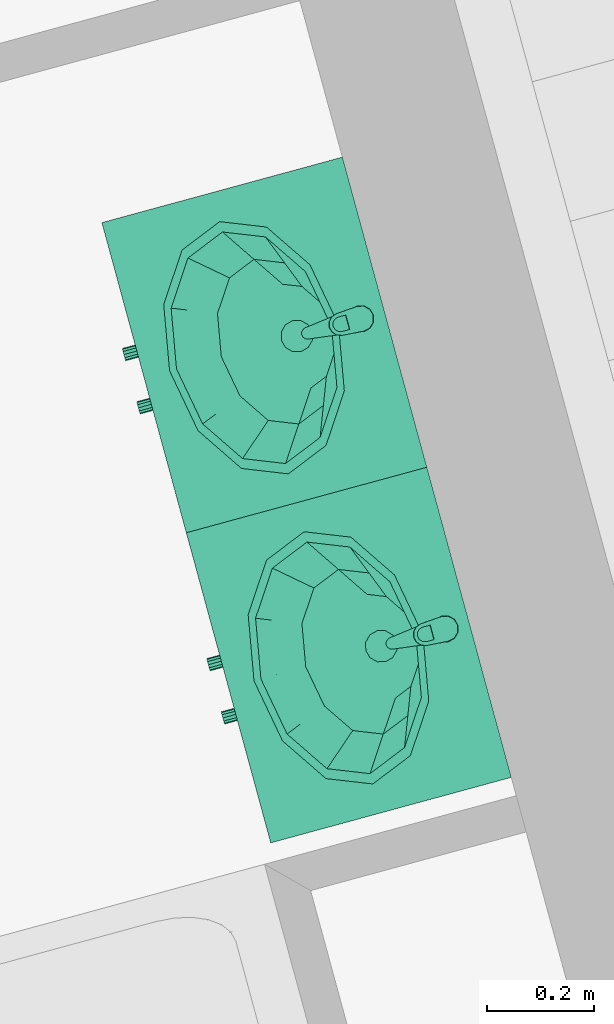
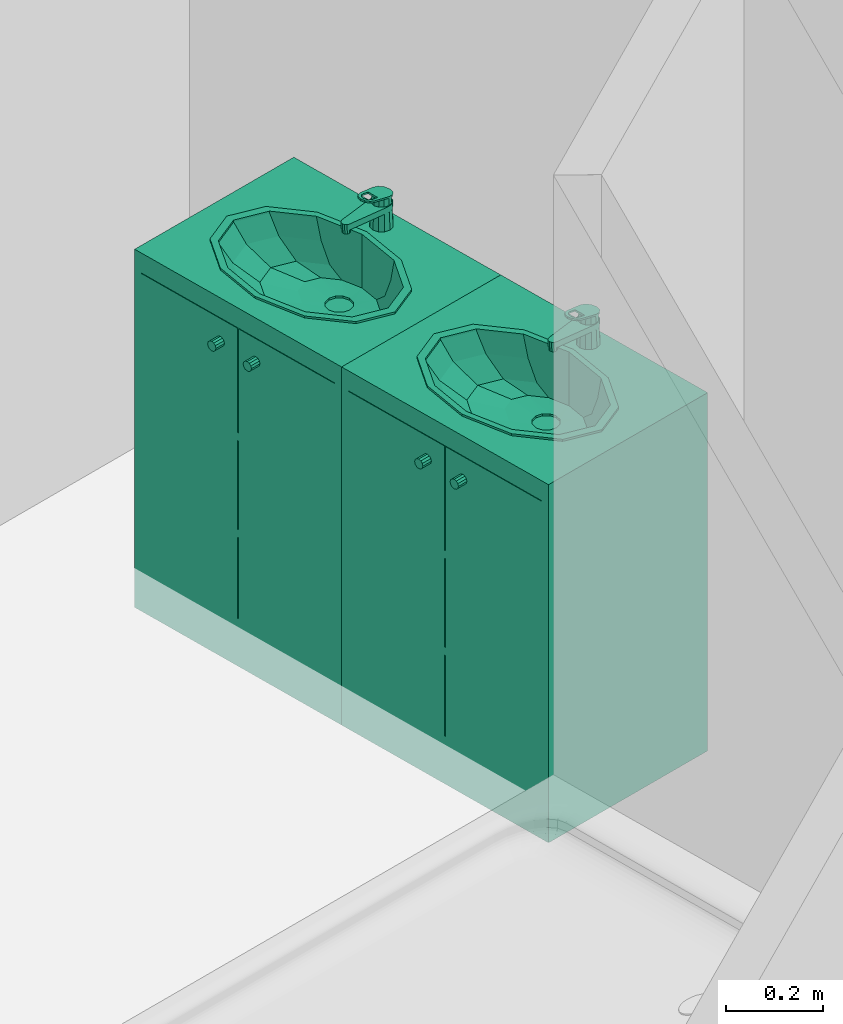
# One storey, part 141 of 195: 2 distribution elements.
"""IFC2X3 building model written with IfcOpenShell, lengths in metres."""

import ifcopenshell
import ifcopenshell.guid

model = None  # the IFC model being written
_history = None  # IfcOwnerHistory: only IFC2X3 demands one
_inside = {}  # id of a spatial element -> (the spatial element, [elements in it])
_under = {}  # id of a project, library or spatial element -> (it, [spatial elements below it])
_declared = {}  # id of a project -> (the project, [libraries it declares])
_typed = {}  # id of a type object -> (the type object, [elements of that type])
_made_of = {}  # id of a material, layer set ... -> (it, [elements and type objects made of it])


def new_model(schema):
    """Start an empty IFC model of exactly this schema.

    Asked for "IFC4X3", IfcOpenShell would pick the latest addendum, in which some entities
    have other attributes; the version numbers below select the first issue.
    IFC2X3 requires an IfcOwnerHistory on every rooted entity: one is made here for all.
    """
    global model, _history
    if schema == "IFC4X3":
        model = ifcopenshell.file(schema_version=(4, 3, 0, 0))
    else:
        model = ifcopenshell.file(schema=schema)
    _inside.clear()
    _under.clear()
    _declared.clear()
    _typed.clear()
    _made_of.clear()
    _history = None
    if model.schema == "IFC2X3":
        org = make("IfcOrganization", Name="unknown")
        user = make(
            "IfcPersonAndOrganization",
            ThePerson=make("IfcPerson", FamilyName="unknown"),
            TheOrganization=org,
        )
        app = make(
            "IfcApplication",
            ApplicationDeveloper=org,
            Version="unknown",
            ApplicationFullName="unknown",
            ApplicationIdentifier="unknown",
        )
        _history = make(
            "IfcOwnerHistory",
            OwningUser=user,
            OwningApplication=app,
            ChangeAction="ADDED",
            CreationDate=0,
        )
    return model


def make(cls, **values):
    """One entity of the class cls with the attributes given. An attribute that is None is left unset."""
    return model.create_entity(
        cls, **{name: value for name, value in values.items() if value is not None}
    )


def entity(cls, *values):
    """Any entity or typed value of the class cls, its attributes in the order of the schema. None: left unset."""
    e = model.create_entity(cls)
    for i, value in enumerate(values):
        if value is not None:
            e[i] = value
    return e


def rooted(cls, **values):
    """An entity with a GlobalId (a new one), such as an element, a storey or a relation."""
    return make(cls, GlobalId=ifcopenshell.guid.new(), OwnerHistory=_history, **values)


def si_unit(unit_type, name, prefix=None):
    """IfcSIUnit, for example si_unit("LENGTHUNIT", "METRE", prefix="MILLI")."""
    return make("IfcSIUnit", UnitType=unit_type, Prefix=prefix, Name=name)


def converted_unit(unit_type, name, factor, base, dimensions=None, offset=None):
    """IfcConversionBasedUnit, such as the inch: factor (a typed value) times the base unit."""
    return make(
        "IfcConversionBasedUnit"
        if offset is None
        else "IfcConversionBasedUnitWithOffset",
        ConversionOffset=offset,
        Dimensions=None
        if dimensions is None
        else entity("IfcDimensionalExponents", *dimensions),
        UnitType=unit_type,
        Name=name,
        ConversionFactor=make(
            "IfcMeasureWithUnit", ValueComponent=factor, UnitComponent=base
        ),
    )


def derived_unit(unit_type, elements):
    """IfcDerivedUnit: a product of units, each with its exponent."""
    return make(
        "IfcDerivedUnit",
        Elements=[
            make("IfcDerivedUnitElement", Unit=unit, Exponent=power)
            for unit, power in elements
        ],
        UnitType=unit_type,
    )


def money_unit(currency):
    """IfcMonetaryUnit."""
    return make("IfcMonetaryUnit", Currency=currency)


def assignment(units):
    """IfcUnitAssignment: the units of a project."""
    return None if units is None else make("IfcUnitAssignment", Units=units)


def point(xyz):
    """IfcCartesianPoint."""
    return None if xyz is None else make("IfcCartesianPoint", Coordinates=xyz)


def direction(xyz):
    """IfcDirection."""
    return None if xyz is None else make("IfcDirection", DirectionRatios=xyz)


def frame(location, z_axis=None, x_axis=None):
    """IfcAxis2Placement3D, a coordinate frame: its origin and axes. An axis left out is left unset."""
    return make(
        "IfcAxis2Placement3D",
        Location=point(location),
        Axis=direction(z_axis),
        RefDirection=direction(x_axis),
    )


def origin_with_axes():
    """The frame at (0, 0, 0) with the z axis (0, 0, 1) and the x axis (1, 0, 0) written out."""
    return frame((0.0, 0.0, 0.0), z_axis=(0.0, 0.0, 1.0), x_axis=(1.0, 0.0, 0.0))


def place(relative_to, where):
    """IfcLocalPlacement: puts the frame where relative to a parent placement (None: the world)."""
    return make(
        "IfcLocalPlacement", PlacementRelTo=relative_to, RelativePlacement=where
    )


def context(
    kind, dimensions, precision=None, world=None, true_north=None, identifier=None
):
    """IfcGeometricRepresentationContext, for example the 3D "Model" context."""
    return make(
        "IfcGeometricRepresentationContext",
        ContextIdentifier=identifier,
        ContextType=kind,
        CoordinateSpaceDimension=dimensions,
        Precision=precision,
        WorldCoordinateSystem=world,
        TrueNorth=true_north,
    )


def subcontext(parent, identifier, kind, view, scale=None):
    """IfcGeometricRepresentationSubContext, for example "Body" below "Model"."""
    return make(
        "IfcGeometricRepresentationSubContext",
        ContextIdentifier=identifier,
        ContextType=kind,
        ParentContext=parent,
        TargetScale=scale,
        TargetView=view,
    )


def project(units=None, contexts=None):
    """IfcProject with its units and contexts."""
    return rooted(
        "IfcProject",
        Name="project",
        RepresentationContexts=contexts,
        UnitsInContext=assignment(units),
    )


def spatial(cls, under=None, at=None, **own):
    """A site, building, storey or space (cls), placed at a placement, below another one or the project."""
    s = rooted(cls, ObjectPlacement=at, **own)
    if under is not None:
        _under.setdefault(under.id(), (under, []))[1].append(s)
    return s


def faces_of(points, faces, orient=None, outer=None):
    """IfcFace entities. A face is a list of loops; a loop is a list of indices into points, from 0.

    orient and outer hold one flag for each loop. By default every Orientation is true, the
    first loop of a face is its IfcFaceOuterBound and the others are IfcFaceBound.
    """
    made = []
    for i, loops in enumerate(faces):
        bounds = []
        for j, loop in enumerate(loops):
            is_outer = j == 0 if outer is None else outer[i][j]
            bounds.append(
                make(
                    "IfcFaceOuterBound" if is_outer else "IfcFaceBound",
                    Bound=make("IfcPolyLoop", Polygon=[points[k] for k in loop]),
                    Orientation=True if orient is None else orient[i][j],
                )
            )
        made.append(make("IfcFace", Bounds=bounds))
    return made


def open_shell(faces, orient=None, outer=None):
    """The faces of one IfcOpenShell. surface_model builds it on its shared points."""
    return ("IfcOpenShell", faces, orient, outer)


def faceted_brep(points, faces, orient=None, outer=None, voids=None):
    """IfcFacetedBrep: a solid bounded by flat faces; with voids (closed shells), ...WithVoids."""
    shared = [point(p) for p in points]
    hull = make("IfcClosedShell", CfsFaces=faces_of(shared, faces, orient, outer))
    if voids is None:
        return make("IfcFacetedBrep", Outer=hull)
    return make(
        "IfcFacetedBrepWithVoids",
        Outer=hull,
        Voids=[
            make(cls, CfsFaces=faces_of(shared, fs, o, b)) for cls, fs, o, b in voids
        ],
    )


def surface_model(cls, points, shells):
    """IfcFaceBasedSurfaceModel or IfcShellBasedSurfaceModel (cls): surfaces that need not close."""
    shared = [point(p) for p in points]
    made = [make(c, CfsFaces=faces_of(shared, fs, o, b)) for c, fs, o, b in shells]
    if cls == "IfcFaceBasedSurfaceModel":
        return make(cls, FbsmFaces=made)
    return make(cls, SbsmBoundary=made)


def shape(context_of_items, identifier, shape_type, items):
    """IfcShapeRepresentation: the items that make up one representation, for example the "Body"."""
    return make(
        "IfcShapeRepresentation",
        ContextOfItems=context_of_items,
        RepresentationIdentifier=identifier,
        RepresentationType=shape_type,
        Items=items,
    )


def source(mapping_origin, context_of_items, identifier, shape_type, items):
    """IfcRepresentationMap: a shape defined once, which mapped items show again and again."""
    return make(
        "IfcRepresentationMap",
        MappingOrigin=mapping_origin,
        MappedRepresentation=shape(context_of_items, identifier, shape_type, items),
    )


def transform(
    local_origin,
    x_axis=None,
    y_axis=None,
    z_axis=None,
    scale=None,
    scale2=None,
    scale3=None,
    uniform=True,
):
    """IfcCartesianTransformationOperator3D, or its non-uniform kind. x_axis, y_axis, z_axis: its Axis1, 2, 3."""
    if uniform:
        return make(
            "IfcCartesianTransformationOperator3D",
            Axis1=direction(x_axis),
            Axis2=direction(y_axis),
            LocalOrigin=point(local_origin),
            Scale=scale,
            Axis3=direction(z_axis),
        )
    return make(
        "IfcCartesianTransformationOperator3DnonUniform",
        Axis1=direction(x_axis),
        Axis2=direction(y_axis),
        LocalOrigin=point(local_origin),
        Scale=scale,
        Axis3=direction(z_axis),
        Scale2=scale2,
        Scale3=scale3,
    )


def mapped(mapping_source, mapping_target):
    """IfcMappedItem: shows the shape of a source again, moved by a transform."""
    return make(
        "IfcMappedItem", MappingSource=mapping_source, MappingTarget=mapping_target
    )


def made_of(thing, what):
    """Note that an element or type object is made of a material, layer set ...; save() writes the relation."""
    if what is not None:
        _made_of.setdefault(what.id(), (what, []))[1].append(thing)
    return thing


def type_object(cls, material=None, **own):
    """A type object (cls), such as IfcWallType, which elements share."""
    return made_of(rooted(cls, **own), material)


def element(
    cls,
    number,
    at=None,
    inside=None,
    cuts=None,
    type_object=None,
    material=None,
    context=None,
    identifier="Body",
    shape_type=None,
    held_by="IfcProductDefinitionShape",
    body=None,
    shapes=None,
    **own,
):
    """One element of the class cls, such as IfcWall. Its Tag is "e" and its number.

    at: its placement. inside: the storey or other place that contains it. cuts: it is an
    opening in that element (IfcRelVoidsElement). A single representation is given by context,
    identifier, shape_type and body (its items); several are given by shapes. held_by: the class
    of the entity that holds the representations. save() writes the other relations.
    """
    e = rooted(cls, Tag="e%d" % number, ObjectPlacement=at, **own)
    if body is not None:
        shapes = [shape(context, identifier, shape_type, body)]
    if shapes is not None:
        e.Representation = make(held_by, Representations=shapes)
    if inside is not None:
        _inside.setdefault(inside.id(), (inside, []))[1].append(e)
    if cuts is not None:
        rooted(
            "IfcRelVoidsElement", RelatingBuildingElement=cuts, RelatedOpeningElement=e
        )
    if type_object is not None:
        _typed.setdefault(type_object.id(), (type_object, []))[1].append(e)
    return made_of(e, material)


def aggregate(whole, parts):
    """IfcRelAggregates: a whole, such as a stair, and the parts it consists of."""
    return rooted("IfcRelAggregates", RelatingObject=whole, RelatedObjects=parts)


def save(model, path):
    """Write the relations noted so far, then the file.

    IfcRelAggregates (storeys below a building ...), IfcRelContainedInSpatialStructure (elements
    in a storey), IfcRelDefinesByType, IfcRelAssociatesMaterial and IfcRelDeclares: one each for
    every whole, place, type object, material and project.
    """
    for whole, parts in _under.values():
        aggregate(whole, parts)
    for where, things in _inside.values():
        rooted(
            "IfcRelContainedInSpatialStructure",
            RelatedElements=things,
            RelatingStructure=where,
        )
    for kind, things in _typed.values():
        rooted("IfcRelDefinesByType", RelatedObjects=things, RelatingType=kind)
    for what, things in _made_of.values():
        rooted("IfcRelAssociatesMaterial", RelatedObjects=things, RelatingMaterial=what)
    for by, libraries in _declared.values():
        rooted("IfcRelDeclares", RelatingContext=by, RelatedDefinitions=libraries)
    model.write(path)


model = new_model("IFC2X3")

# Units and contexts
model_context = context("Model", 3, precision=1e-05, world=origin_with_axes(), true_north=direction((0.0, 1.0)))
body_context = subcontext(model_context, "Body", "Model", "MODEL_VIEW")
ifc_project = project(units=[si_unit("LENGTHUNIT", "METRE"), si_unit("AREAUNIT", "SQUARE_METRE"), si_unit("VOLUMEUNIT", "CUBIC_METRE"), converted_unit("PLANEANGLEUNIT", "DEGREE", entity("IfcPlaneAngleMeasure", 0.0174532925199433), si_unit("PLANEANGLEUNIT", "RADIAN"), dimensions=[0, 0, 0, 0, 0, 0, 0]), money_unit("CHF"), converted_unit("TIMEUNIT", "Year", entity("IfcTimeMeasure", 31557600.0), si_unit("TIMEUNIT", "SECOND"), dimensions=[0, 0, 1, 0, 0, 0, 0]), si_unit("MASSUNIT", "GRAM", prefix="KILO"), si_unit("THERMODYNAMICTEMPERATUREUNIT", "DEGREE_CELSIUS"), si_unit("LUMINOUSINTENSITYUNIT", "LUMEN"), si_unit("ENERGYUNIT", "JOULE", prefix="MEGA"), derived_unit("THERMALCONDUCTANCEUNIT", [(si_unit("POWERUNIT", "WATT"), 1), (si_unit("LENGTHUNIT", "METRE"), -1), (si_unit("THERMODYNAMICTEMPERATUREUNIT", "KELVIN"), -1)]), derived_unit("SPECIFICHEATCAPACITYUNIT", [(si_unit("ENERGYUNIT", "JOULE"), 1), (si_unit("MASSUNIT", "GRAM", prefix="KILO"), -1), (si_unit("THERMODYNAMICTEMPERATUREUNIT", "KELVIN"), -1)]), derived_unit("MASSDENSITYUNIT", [(si_unit("MASSUNIT", "GRAM", prefix="KILO"), 1), (si_unit("VOLUMEUNIT", "CUBIC_METRE"), -1)])], contexts=[model_context])

# Site, building, storey
site_placement = place(None, origin_with_axes())
site = spatial("IfcSite", under=ifc_project, at=site_placement, Name="Site", CompositionType="ELEMENT")
building_placement = place(site_placement, origin_with_axes())
building = spatial("IfcBuilding", under=site, at=building_placement, Name="Bâtiment", CompositionType="ELEMENT")
storey_placement = place(building_placement, origin_with_axes())
storey = spatial("IfcBuildingStorey", under=building, at=storey_placement, Name="rdc", CompositionType="ELEMENT", Elevation=0.0)

# Distribution elements
distribution_element_type = type_object("IfcDistributionElementType", Name="Lavabo sur meuble 27")
shared_shape = source(origin_with_axes(), body_context, "Body", "SurfaceModel", [
    faceted_brep([(0.0, 0.0, 0.0), (0.6, 0.0, 0.0), (0.6, 0.0, 0.1), (0.0, 0.0, 0.1), (0.0, 0.4653441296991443, 0.0), (0.6, 0.4653441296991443, 0.0), (0.6, 0.4653441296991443, 0.1), (0.0, 0.4653441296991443, 0.1)], [[[0, 1, 2, 3]], [[0, 4, 5, 1]], [[1, 5, 6, 2]], [[3, 2, 6, 7]], [[4, 0, 3, 7]], [[5, 4, 7, 6]]]),
    faceted_brep([(0.0, 0.0, 0.1), (0.02, 0.0, 0.1), (0.02, 0.0, 0.12), (0.0, 0.0, 0.12), (0.0, 0.4653441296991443, 0.1), (0.02, 0.4653441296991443, 0.1), (0.58, 0.4653441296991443, 0.1), (0.6, 0.4653441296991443, 0.1), (0.6, 0.0, 0.1), (0.58, 0.0, 0.1), (0.58, 0.0, 0.12), (0.6, 0.0, 0.12), (0.6, 0.4653441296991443, 0.12), (0.58, 0.4653441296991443, 0.12), (0.02, 0.4653441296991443, 0.12), (0.0, 0.4653441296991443, 0.12)], [[[0, 1, 2, 3]], [[0, 4, 5, 6, 7, 8, 9, 1]], [[1, 9, 10, 2]], [[3, 2, 10, 11, 12, 13, 14, 15]], [[4, 0, 3, 15]], [[5, 4, 15, 14]], [[6, 5, 14, 13]], [[7, 6, 13, 12]], [[8, 7, 12, 11]], [[9, 8, 11, 10]]]),
    faceted_brep([(0.0, 0.0, 0.12), (0.02, 0.0, 0.12), (0.02, 0.0, 0.85), (0.0, 0.0, 0.85), (0.0, 0.4653441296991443, 0.12), (0.6, 0.4653441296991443, 0.12), (0.6, 0.0, 0.12), (0.58, 0.0, 0.12), (0.58, 0.4453441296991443, 0.12), (0.02, 0.4453441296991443, 0.12), (0.02, 0.4453441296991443, 0.85), (0.58, 0.4453441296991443, 0.85), (0.58, 0.0, 0.85), (0.6, 0.0, 0.85), (0.6, 0.4653441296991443, 0.85), (0.0, 0.4653441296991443, 0.85)], [[[0, 1, 2, 3]], [[0, 4, 5, 6, 7, 8, 9, 1]], [[1, 9, 10, 2]], [[3, 2, 10, 11, 12, 13, 14, 15]], [[4, 0, 3, 15]], [[5, 4, 15, 14]], [[6, 5, 14, 13]], [[7, 6, 13, 12]], [[8, 7, 12, 11]], [[9, 8, 11, 10]]]),
    faceted_brep([(0.58, 0.0, 0.3233333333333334), (0.58, 0.4453441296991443, 0.3233333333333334), (0.58, 0.4453441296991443, 0.3433333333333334), (0.58, 0.0, 0.3433333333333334), (0.02, 0.0, 0.3233333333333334), (0.02, 0.4453441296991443, 0.3233333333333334), (0.02, 0.4453441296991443, 0.3433333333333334), (0.02, 0.0, 0.3433333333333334)], [[[0, 1, 2, 3]], [[0, 4, 5, 1]], [[1, 5, 6, 2]], [[3, 2, 6, 7]], [[4, 0, 3, 7]], [[5, 4, 7, 6]]]),
    faceted_brep([(0.58, 0.0, 0.5666666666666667), (0.58, 0.4453441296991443, 0.5666666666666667), (0.58, 0.4453441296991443, 0.5866666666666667), (0.58, 0.0, 0.5866666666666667), (0.02, 0.0, 0.5666666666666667), (0.02, 0.4453441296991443, 0.5666666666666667), (0.02, 0.4453441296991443, 0.5866666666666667), (0.02, 0.0, 0.5866666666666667)], [[[0, 1, 2, 3]], [[0, 4, 5, 1]], [[1, 5, 6, 2]], [[3, 2, 6, 7]], [[4, 0, 3, 7]], [[5, 4, 7, 6]]]),
    faceted_brep([(0.0, 0.4653441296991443, 0.85), (0.6, 0.4653441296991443, 0.85), (0.6, 0.0, 0.85), (0.0, 0.0, 0.85), (0.4124999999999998, 0.08276825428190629, 0.85), (0.4948557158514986, 0.137672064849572, 0.85), (0.525, 0.2126720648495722, 0.85), (0.4948557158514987, 0.2876720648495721, 0.85), (0.4125, 0.3425758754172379, 0.85), (0.3, 0.3626720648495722, 0.85), (0.1875000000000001, 0.342575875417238, 0.85), (0.1051442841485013, 0.2876720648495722, 0.85), (0.07499999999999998, 0.2126720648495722, 0.85), (0.1051442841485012, 0.1376720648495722, 0.85), (0.1874999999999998, 0.08276825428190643, 0.85), (0.3, 0.06267206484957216, 0.85), (0.0, 0.4653441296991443, 0.9), (0.6, 0.4653441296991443, 0.9), (0.6, 0.0, 0.9), (0.0, 0.0, 0.9), (0.4124999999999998, 0.08276825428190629, 0.9), (0.4948557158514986, 0.137672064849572, 0.9), (0.525, 0.2126720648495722, 0.9), (0.4948557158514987, 0.2876720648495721, 0.9), (0.4125, 0.3425758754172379, 0.9), (0.3, 0.3626720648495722, 0.9), (0.1875000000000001, 0.342575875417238, 0.9), (0.1051442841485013, 0.2876720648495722, 0.9), (0.07499999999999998, 0.2126720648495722, 0.9), (0.1051442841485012, 0.1376720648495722, 0.9), (0.1874999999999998, 0.08276825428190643, 0.9), (0.3, 0.06267206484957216, 0.9)], [[[0, 1, 2, 3], [4, 5, 6, 7, 8, 9, 10, 11, 12, 13, 14, 15]], [[0, 16, 17, 1]], [[1, 17, 18, 2]], [[2, 18, 19, 3]], [[3, 19, 16, 0]], [[20, 21, 5, 4]], [[21, 22, 6, 5]], [[22, 23, 7, 6]], [[23, 24, 8, 7]], [[24, 25, 9, 8]], [[25, 26, 10, 9]], [[26, 27, 11, 10]], [[27, 28, 12, 11]], [[28, 29, 13, 12]], [[29, 30, 14, 13]], [[30, 31, 15, 14]], [[31, 20, 4, 15]], [[18, 17, 16, 19], [24, 23, 22, 21, 20, 31, 30, 29, 28, 27, 26, 25]]]),
    faceted_brep([(0.544, 0.2126720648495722, 0.905), (0.544, 0.2126720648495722, 0.9), (0.511310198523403, 0.2943684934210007, 0.9), (0.511310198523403, 0.2943684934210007, 0.905), (0.5113101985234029, 0.1309756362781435, 0.905), (0.5113101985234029, 0.1309756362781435, 0.9), (0.4219999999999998, 0.07116969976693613, 0.9), (0.3, 0.04927920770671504, 0.9), (0.1779999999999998, 0.07116969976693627, 0.9), (0.08868980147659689, 0.1309756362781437, 0.9), (0.05599999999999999, 0.2126720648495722, 0.9), (0.088689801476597, 0.2943684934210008, 0.9), (0.178, 0.3541744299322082, 0.9), (0.3, 0.3760649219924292, 0.9), (0.422, 0.3541744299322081, 0.9), (0.524, 0.2126720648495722, 0.9), (0.4939896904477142, 0.2876720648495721, 0.9), (0.412, 0.3425758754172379, 0.9), (0.3, 0.3626720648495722, 0.9), (0.1880000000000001, 0.342575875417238, 0.9), (0.1060103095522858, 0.2876720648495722, 0.9), (0.07599999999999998, 0.2126720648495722, 0.9), (0.1060103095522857, 0.1376720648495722, 0.9), (0.1879999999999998, 0.08276825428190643, 0.9), (0.3, 0.06267206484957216, 0.9), (0.4119999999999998, 0.08276825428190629, 0.9), (0.4939896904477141, 0.137672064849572, 0.9), (0.422, 0.3541744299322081, 0.905), (0.3, 0.3760649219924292, 0.905), (0.178, 0.3541744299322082, 0.905), (0.088689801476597, 0.2943684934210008, 0.905), (0.05599999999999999, 0.2126720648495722, 0.905), (0.08868980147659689, 0.1309756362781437, 0.905), (0.1779999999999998, 0.07116969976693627, 0.905), (0.3, 0.04927920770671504, 0.905), (0.4219999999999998, 0.07116969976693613, 0.905), (0.524, 0.2126720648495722, 0.905), (0.4939896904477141, 0.137672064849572, 0.905), (0.4119999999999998, 0.08276825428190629, 0.905), (0.3, 0.06267206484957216, 0.905), (0.1879999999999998, 0.08276825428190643, 0.905), (0.1060103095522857, 0.1376720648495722, 0.905), (0.07599999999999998, 0.2126720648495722, 0.905), (0.1060103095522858, 0.2876720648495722, 0.905), (0.1880000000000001, 0.342575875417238, 0.905), (0.3, 0.3626720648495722, 0.905), (0.412, 0.3425758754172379, 0.905), (0.4939896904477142, 0.2876720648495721, 0.905)], [[[0, 1, 2, 3]], [[4, 5, 1, 0]], [[1, 5, 6, 7, 8, 9, 10, 11, 12, 13, 14, 2], [15, 16, 17, 18, 19, 20, 21, 22, 23, 24, 25, 26]], [[3, 2, 14, 27]], [[0, 3, 27, 28, 29, 30, 31, 32, 33, 34, 35, 4], [36, 37, 38, 39, 40, 41, 42, 43, 44, 45, 46, 47]], [[35, 6, 5, 4]], [[34, 7, 6, 35]], [[33, 8, 7, 34]], [[32, 9, 8, 33]], [[31, 10, 9, 32]], [[30, 11, 10, 31]], [[29, 12, 11, 30]], [[28, 13, 12, 29]], [[27, 14, 13, 28]], [[47, 16, 15, 36]], [[46, 17, 16, 47]], [[45, 18, 17, 46]], [[44, 19, 18, 45]], [[43, 20, 19, 44]], [[42, 21, 20, 43]], [[41, 22, 21, 42]], [[40, 23, 22, 41]], [[39, 24, 23, 40]], [[38, 25, 24, 39]], [[37, 26, 25, 38]], [[36, 15, 26, 37]]]),
    surface_model("IfcShellBasedSurfaceModel", [(0.3, 0.3626720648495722, 0.9), (0.3, 0.3626720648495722, 0.848), (0.4008, 0.3445854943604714, 0.848), (0.412, 0.342575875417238, 0.9), (0.1879999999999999, 0.3425758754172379, 0.9), (0.1991999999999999, 0.3445854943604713, 0.848), (0.4745907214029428, 0.2951720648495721, 0.848), (0.4939896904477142, 0.2876720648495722, 0.9), (0.1060103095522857, 0.2876720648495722, 0.9), (0.1254092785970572, 0.2951720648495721, 0.848), (0.5016, 0.2276720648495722, 0.848), (0.524, 0.2126720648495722, 0.9), (0.07599999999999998, 0.2126720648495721, 0.9), (0.09839999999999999, 0.2276720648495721, 0.848), (0.4745907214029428, 0.1601720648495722, 0.848), (0.4939896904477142, 0.1376720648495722, 0.9), (0.1060103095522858, 0.1376720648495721, 0.9), (0.1254092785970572, 0.1601720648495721, 0.848), (0.4008, 0.1107586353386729, 0.848), (0.412, 0.08276825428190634, 0.9), (0.1879999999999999, 0.08276825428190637, 0.9), (0.1992, 0.110758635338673, 0.848), (0.3, 0.09267206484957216, 0.848), (0.3, 0.06267206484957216, 0.9)], [open_shell([[[0, 1, 2, 3]], [[4, 5, 1, 0]], [[3, 2, 6, 7]], [[8, 9, 5, 4]], [[7, 6, 10, 11]], [[12, 13, 9, 8]], [[11, 10, 14, 15]], [[16, 17, 13, 12]], [[15, 14, 18, 19]], [[20, 21, 17, 16]], [[19, 18, 22, 23]], [[23, 22, 21, 20]]])]),
    surface_model("IfcShellBasedSurfaceModel", [(0.3, 0.3626720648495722, 0.848), (0.3, 0.3626720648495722, 0.7959999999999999), (0.379632, 0.3483836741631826, 0.7959999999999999), (0.4008, 0.3445854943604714, 0.848), (0.1991999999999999, 0.3445854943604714, 0.848), (0.2203679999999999, 0.3483836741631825, 0.7959999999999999), (0.4379266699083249, 0.3093470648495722, 0.7959999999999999), (0.4745907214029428, 0.2951720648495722, 0.848), (0.1254092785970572, 0.2951720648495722, 0.848), (0.1620733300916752, 0.3093470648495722, 0.7959999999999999), (0.459264, 0.2560220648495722, 0.7959999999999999), (0.5016, 0.2276720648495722, 0.848), (0.09839999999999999, 0.2276720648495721, 0.848), (0.140736, 0.2560220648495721, 0.7959999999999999), (0.4379266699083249, 0.2026970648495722, 0.7959999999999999), (0.4745907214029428, 0.1601720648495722, 0.848), (0.1254092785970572, 0.1601720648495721, 0.848), (0.1620733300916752, 0.2026970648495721, 0.7959999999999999), (0.379632, 0.1636604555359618, 0.7959999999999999), (0.4008, 0.1107586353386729, 0.848), (0.1992, 0.110758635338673, 0.848), (0.220368, 0.1636604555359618, 0.7959999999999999), (0.3, 0.1493720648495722, 0.7959999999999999), (0.3, 0.09267206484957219, 0.848)], [open_shell([[[0, 1, 2, 3]], [[4, 5, 1, 0]], [[3, 2, 6, 7]], [[8, 9, 5, 4]], [[7, 6, 10, 11]], [[12, 13, 9, 8]], [[11, 10, 14, 15]], [[16, 17, 13, 12]], [[15, 14, 18, 19]], [[20, 21, 17, 16]], [[19, 18, 22, 23]], [[23, 22, 21, 20]]])]),
    surface_model("IfcShellBasedSurfaceModel", [(0.3, 0.3626720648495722, 0.7959999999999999), (0.3, 0.3626720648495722, 0.7699999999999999), (0.35016816, 0.3536703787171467, 0.7699999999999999), (0.379632, 0.3483836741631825, 0.7959999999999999), (0.2203679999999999, 0.3483836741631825, 0.7959999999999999), (0.2498318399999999, 0.3536703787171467, 0.7699999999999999), (0.3868938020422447, 0.3290773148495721, 0.7699999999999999), (0.4379266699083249, 0.3093470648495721, 0.7959999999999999), (0.1620733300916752, 0.3093470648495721, 0.7959999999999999), (0.2131061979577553, 0.3290773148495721, 0.7699999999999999), (0.40033632, 0.2954825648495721, 0.7699999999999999), (0.459264, 0.2560220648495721, 0.7959999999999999), (0.140736, 0.2560220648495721, 0.7959999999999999), (0.19966368, 0.2954825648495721, 0.7699999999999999), (0.3868938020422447, 0.2618878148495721, 0.7699999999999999), (0.4379266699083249, 0.2026970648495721, 0.7959999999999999), (0.1620733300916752, 0.2026970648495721, 0.7959999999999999), (0.2131061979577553, 0.2618878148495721, 0.7699999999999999), (0.35016816, 0.2372947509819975, 0.7699999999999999), (0.379632, 0.1636604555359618, 0.7959999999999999), (0.220368, 0.1636604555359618, 0.7959999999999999), (0.24983184, 0.2372947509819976, 0.7699999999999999), (0.3, 0.2282930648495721, 0.7699999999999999), (0.3, 0.1493720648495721, 0.7959999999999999)], [open_shell([[[0, 1, 2, 3]], [[4, 5, 1, 0]], [[3, 2, 6, 7]], [[8, 9, 5, 4]], [[7, 6, 10, 11]], [[12, 13, 9, 8]], [[11, 10, 14, 15]], [[16, 17, 13, 12]], [[15, 14, 18, 19]], [[20, 21, 17, 16]], [[19, 18, 22, 23]], [[23, 22, 21, 20]]])]),
    surface_model("IfcShellBasedSurfaceModel", [(0.3, 0.3626720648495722, 0.7699999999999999), (0.315, 0.3214633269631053, 0.7629999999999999), (0.35016816, 0.3536703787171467, 0.7699999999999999), (0.3, 0.3254825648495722, 0.7629999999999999), (0.3259807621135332, 0.3104825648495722, 0.7629999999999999), (0.2498318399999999, 0.3536703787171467, 0.7699999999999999), (0.3868938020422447, 0.3290773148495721, 0.7699999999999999), (0.285, 0.3214633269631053, 0.7629999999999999), (0.33, 0.2954825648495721, 0.7629999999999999), (0.2131061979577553, 0.3290773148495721, 0.7699999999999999), (0.40033632, 0.2954825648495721, 0.7699999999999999), (0.2740192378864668, 0.3104825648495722, 0.7629999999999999), (0.3259807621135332, 0.2804825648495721, 0.7629999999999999), (0.19966368, 0.2954825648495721, 0.7699999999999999), (0.3868938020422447, 0.2618878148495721, 0.7699999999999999), (0.27, 0.2954825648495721, 0.7629999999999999), (0.315, 0.269501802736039, 0.7629999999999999), (0.2131061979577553, 0.2618878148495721, 0.7699999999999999), (0.35016816, 0.2372947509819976, 0.7699999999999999), (0.2740192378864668, 0.2804825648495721, 0.7629999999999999), (0.3, 0.2654825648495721, 0.7629999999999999), (0.24983184, 0.2372947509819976, 0.7699999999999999), (0.3, 0.2282930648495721, 0.7699999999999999), (0.285, 0.269501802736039, 0.7629999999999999)], [open_shell([[[0, 1, 2]], [[0, 3, 1]], [[2, 1, 4]], [[5, 3, 0]], [[2, 4, 6]], [[5, 7, 3]], [[6, 4, 8]], [[9, 7, 5]], [[6, 8, 10]], [[9, 11, 7]], [[10, 8, 12]], [[13, 11, 9]], [[10, 12, 14]], [[13, 15, 11]], [[14, 12, 16]], [[17, 15, 13]], [[14, 16, 18]], [[17, 19, 15]], [[18, 16, 20]], [[21, 19, 17]], [[18, 20, 22]], [[21, 23, 19]], [[22, 20, 23]], [[22, 23, 21]]])]),
    surface_model("IfcShellBasedSurfaceModel", [(0.33, 0.2954825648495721, 0.763), (0.33, 0.2954825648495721, 0.758), (0.3259807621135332, 0.3104825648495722, 0.758), (0.3259807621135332, 0.3104825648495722, 0.763), (0.3259807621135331, 0.2804825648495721, 0.763), (0.3259807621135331, 0.2804825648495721, 0.758), (0.3149999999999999, 0.269501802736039, 0.758), (0.3, 0.2654825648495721, 0.758), (0.285, 0.269501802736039, 0.758), (0.2740192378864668, 0.2804825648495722, 0.758), (0.27, 0.2954825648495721, 0.758), (0.2740192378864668, 0.3104825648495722, 0.758), (0.285, 0.3214633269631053, 0.758), (0.3, 0.3254825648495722, 0.758), (0.315, 0.3214633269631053, 0.758), (0.315, 0.3214633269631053, 0.763), (0.3149999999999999, 0.269501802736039, 0.763), (0.3, 0.2654825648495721, 0.763), (0.285, 0.269501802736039, 0.763), (0.2740192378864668, 0.2804825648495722, 0.763), (0.27, 0.2954825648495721, 0.763), (0.2740192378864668, 0.3104825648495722, 0.763), (0.285, 0.3214633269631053, 0.763), (0.3, 0.3254825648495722, 0.763)], [open_shell([[[0, 1, 2, 3]], [[4, 5, 1, 0]], [[1, 5, 6, 7, 8, 9, 10, 11, 12, 13, 14, 2]], [[3, 2, 14, 15]], [[16, 6, 5, 4]], [[17, 7, 6, 16]], [[18, 8, 7, 17]], [[19, 9, 8, 18]], [[20, 10, 9, 19]], [[21, 11, 10, 20]], [[22, 12, 11, 21]], [[23, 13, 12, 22]], [[15, 14, 13, 23]]])]),
    faceted_brep([(0.3125, 0.4406587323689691, 0.9), (0.3, 0.4440080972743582, 0.9), (0.3, 0.4402100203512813, 0.9759615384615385), (0.310587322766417, 0.4373458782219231, 0.976507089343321), (0.3216506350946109, 0.4315080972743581, 0.9), (0.325, 0.4190080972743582, 0.9), (0.3216506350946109, 0.4065080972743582, 0.9), (0.3125, 0.3973574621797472, 0.9), (0.3, 0.3940080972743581, 0.9), (0.2875, 0.3973574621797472, 0.9), (0.278349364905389, 0.4065080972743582, 0.9), (0.275, 0.4190080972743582, 0.9), (0.278349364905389, 0.4315080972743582, 0.9), (0.2875, 0.4406587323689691, 0.9), (0.289412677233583, 0.4373458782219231, 0.976507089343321), (0.2817264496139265, 0.4295583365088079, 0.9779904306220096), (0.279, 0.4190080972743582, 0.98), (0.2818996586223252, 0.4085578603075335, 0.9819905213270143), (0.2895858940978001, 0.400970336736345, 0.9834357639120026), (0.3, 0.3982062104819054, 0.9839622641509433), (0.3104141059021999, 0.400970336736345, 0.9834357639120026), (0.3181003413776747, 0.4085578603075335, 0.9819905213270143), (0.321, 0.4190080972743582, 0.98), (0.3182735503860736, 0.4295583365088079, 0.9779904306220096)], [[[0, 1, 2, 3]], [[0, 4, 5, 6, 7, 8, 9, 10, 11, 12, 13, 1]], [[1, 13, 14, 2]], [[3, 2, 14, 15, 16, 17, 18, 19, 20, 21, 22, 23]], [[4, 0, 3, 23]], [[5, 4, 23, 22]], [[6, 5, 22, 21]], [[7, 6, 21, 20]], [[8, 7, 20, 19]], [[9, 8, 19, 18]], [[10, 9, 18, 17]], [[11, 10, 17, 16]], [[12, 11, 16, 15]], [[13, 12, 15, 14]]]),
    faceted_brep([(0.309, 0.3160080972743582, 0.935), (0.3077942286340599, 0.3205080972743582, 0.935), (0.3077942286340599, 0.3205080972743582, 0.9450000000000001), (0.309, 0.3160080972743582, 0.9450000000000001), (0.3077942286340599, 0.3115080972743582, 0.935), (0.3045, 0.3082138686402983, 0.935), (0.3, 0.3070080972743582, 0.935), (0.2955, 0.3082138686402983, 0.935), (0.2922057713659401, 0.3115080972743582, 0.935), (0.291, 0.3160080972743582, 0.935), (0.2922057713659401, 0.3205080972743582, 0.935), (0.2955, 0.3238023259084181, 0.935), (0.3, 0.3250080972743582, 0.935), (0.3045, 0.3238023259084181, 0.935), (0.3045, 0.3238023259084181, 0.9450000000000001), (0.3, 0.3250080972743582, 0.9450000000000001), (0.2955, 0.3238023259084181, 0.9450000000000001), (0.2922057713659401, 0.3205080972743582, 0.9450000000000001), (0.291, 0.3160080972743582, 0.9450000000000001), (0.2922057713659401, 0.3115080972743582, 0.9450000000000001), (0.2955, 0.3082138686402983, 0.9450000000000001), (0.3, 0.3070080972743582, 0.9450000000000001), (0.3045, 0.3082138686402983, 0.9450000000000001), (0.3077942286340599, 0.3115080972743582, 0.9450000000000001)], [[[0, 1, 2, 3]], [[0, 4, 5, 6, 7, 8, 9, 10, 11, 12, 13, 1]], [[1, 13, 14, 2]], [[3, 2, 14, 15, 16, 17, 18, 19, 20, 21, 22, 23]], [[4, 0, 3, 23]], [[5, 4, 23, 22]], [[6, 5, 22, 21]], [[7, 6, 21, 20]], [[8, 7, 20, 19]], [[9, 8, 19, 18]], [[10, 9, 18, 17]], [[11, 10, 17, 16]], [[12, 11, 16, 15]], [[13, 12, 15, 14]]]),
    faceted_brep([(0.2871282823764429, 0.439264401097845, 0.9600000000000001), (0.2782721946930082, 0.4292013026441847, 0.9600000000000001), (0.2761946, 0.4159581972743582, 0.9600000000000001), (0.2890880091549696, 0.3146197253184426, 0.9600000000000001), (0.2909711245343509, 0.3097249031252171, 0.9600000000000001), (0.2949066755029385, 0.3062583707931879, 0.9600000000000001), (0.300000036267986, 0.305008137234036, 0.9600000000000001), (0.3050933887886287, 0.3062584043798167, 0.9600000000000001), (0.309028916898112, 0.3097249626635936, 0.9600000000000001), (0.310912, 0.3146197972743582, 0.9600000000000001), (0.3238053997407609, 0.4159581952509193, 0.9600000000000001), (0.3217278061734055, 0.4292013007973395, 0.9600000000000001), (0.3128717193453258, 0.4392644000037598, 0.9600000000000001), (0.300000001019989, 0.44300807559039, 0.9600000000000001), (0.311, 0.4380606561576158, 0.9600000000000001), (0.3190525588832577, 0.4300080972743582, 0.9600000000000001), (0.322, 0.4190080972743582, 0.9600000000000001), (0.3190525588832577, 0.4080080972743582, 0.9600000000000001), (0.3109999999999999, 0.3999555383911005, 0.9600000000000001), (0.3, 0.3970080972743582, 0.9600000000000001), (0.289, 0.3999555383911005, 0.9600000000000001), (0.2809474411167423, 0.4080080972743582, 0.9600000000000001), (0.278, 0.4190080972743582, 0.9600000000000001), (0.2809474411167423, 0.4300080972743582, 0.9600000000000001), (0.289, 0.4380606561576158, 0.9600000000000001), (0.3, 0.4410080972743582, 0.9600000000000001), (0.2782721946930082, 0.4292013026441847, 0.9450000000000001), (0.2871282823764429, 0.439264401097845, 0.9450000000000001), (0.2761946, 0.4159581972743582, 0.9450000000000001), (0.2890880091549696, 0.3146197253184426, 0.9450000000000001), (0.2909711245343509, 0.3097249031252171, 0.9450000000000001), (0.2949066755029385, 0.3062583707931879, 0.9450000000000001), (0.300000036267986, 0.305008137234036, 0.9450000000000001), (0.3050933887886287, 0.3062584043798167, 0.9450000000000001), (0.309028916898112, 0.3097249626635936, 0.9450000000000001), (0.310912, 0.3146197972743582, 0.9450000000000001), (0.3238053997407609, 0.4159581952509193, 0.9450000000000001), (0.3217278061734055, 0.4292013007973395, 0.9450000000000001), (0.3128717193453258, 0.4392644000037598, 0.9450000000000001), (0.300000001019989, 0.44300807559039, 0.9450000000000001), (0.311375, 0.4387101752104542, 0.9450000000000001), (0.319702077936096, 0.4303830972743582, 0.9450000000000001), (0.32275, 0.4190080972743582, 0.9450000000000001), (0.319702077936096, 0.4076330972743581, 0.9450000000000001), (0.311375, 0.3993060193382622, 0.9450000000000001), (0.3, 0.3962580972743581, 0.9450000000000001), (0.288625, 0.3993060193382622, 0.9450000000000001), (0.280297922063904, 0.4076330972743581, 0.9450000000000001), (0.2772499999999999, 0.4190080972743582, 0.9450000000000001), (0.280297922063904, 0.4303830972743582, 0.9450000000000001), (0.288625, 0.4387101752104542, 0.9450000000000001), (0.3, 0.4417580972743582, 0.9450000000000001)], [[[0, 1, 2, 3, 4, 5, 6, 7, 8, 9, 10, 11, 12, 13], [14, 15, 16, 17, 18, 19, 20, 21, 22, 23, 24, 25]], [[26, 1, 0, 27]], [[28, 2, 1, 26]], [[29, 3, 2, 28]], [[30, 4, 3, 29]], [[31, 5, 4, 30]], [[32, 6, 5, 31]], [[33, 7, 6, 32]], [[34, 8, 7, 33]], [[35, 9, 8, 34]], [[36, 10, 9, 35]], [[37, 11, 10, 36]], [[38, 12, 11, 37]], [[39, 13, 12, 38]], [[27, 0, 13, 39]], [[40, 41, 15, 14]], [[41, 42, 16, 15]], [[42, 43, 17, 16]], [[43, 44, 18, 17]], [[44, 45, 19, 18]], [[20, 19, 45, 46]], [[21, 20, 46, 47]], [[22, 21, 47, 48]], [[23, 22, 48, 49]], [[24, 23, 49, 50]], [[50, 51, 25, 24]], [[51, 40, 14, 25]], [[32, 31, 30, 29, 28, 26, 27, 39, 38, 37, 36, 35, 34, 33], [44, 43, 42, 41, 40, 51, 50, 49, 48, 47, 46, 45]]]),
    faceted_brep([(0.323893, 0.4173155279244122, 0.9803223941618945), (0.3212964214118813, 0.4297828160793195, 0.9779476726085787), (0.3212964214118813, 0.4305312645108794, 0.9818770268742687), (0.323893, 0.4180639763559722, 0.9842517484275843), (0.3209459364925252, 0.377171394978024, 0.9879688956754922), (0.317663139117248, 0.3674937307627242, 0.9898122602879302), (0.3100614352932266, 0.3605443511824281, 0.9911359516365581), (0.2999995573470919, 0.3580224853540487, 0.9916163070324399), (0.289937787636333, 0.3605447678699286, 0.9911358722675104), (0.2823363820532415, 0.3674944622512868, 0.9898121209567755), (0.279054, 0.3771722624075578, 0.9879687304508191), (0.2761069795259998, 0.4173158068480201, 0.9803223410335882), (0.2787037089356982, 0.4297830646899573, 0.9779476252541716), (0.2875283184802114, 0.4390992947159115, 0.976173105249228), (0.3000001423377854, 0.4425400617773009, 0.9755177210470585), (0.3124719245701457, 0.4390991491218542, 0.9761731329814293), (0.314, 0.3934672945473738, 0.9848649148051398), (0.286, 0.3934672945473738, 0.9848649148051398), (0.286, 0.37865166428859, 0.9876869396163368), (0.2878756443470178, 0.3717752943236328, 0.9889967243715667), (0.293, 0.3667414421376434, 0.9899555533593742), (0.3, 0.3648989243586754, 0.9903065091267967), (0.307, 0.3667414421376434, 0.9899555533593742), (0.3121243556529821, 0.3717752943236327, 0.9889967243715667), (0.314, 0.37865166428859, 0.9876869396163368), (0.3124719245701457, 0.4398475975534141, 0.9801024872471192), (0.3000001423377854, 0.4432885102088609, 0.9794470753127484), (0.2875283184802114, 0.4398477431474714, 0.9801024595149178), (0.2787037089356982, 0.4305315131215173, 0.9818769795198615), (0.2761069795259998, 0.4180642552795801, 0.9842516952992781), (0.279054, 0.3779207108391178, 0.991898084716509), (0.2823363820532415, 0.3682429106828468, 0.9937414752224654), (0.289937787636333, 0.3612932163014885, 0.9950652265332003), (0.2999995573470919, 0.3587709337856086, 0.9955456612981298), (0.3100614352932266, 0.3612927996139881, 0.995065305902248), (0.317663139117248, 0.3682421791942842, 0.9937416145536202), (0.3209459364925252, 0.377919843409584, 0.9918982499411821), (0.314, 0.3942157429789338, 0.9887942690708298), (0.314, 0.3794001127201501, 0.9916162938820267), (0.3121243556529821, 0.3725237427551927, 0.9929260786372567), (0.307, 0.3674898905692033, 0.9938849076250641), (0.3, 0.3656473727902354, 0.9942358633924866), (0.293, 0.3674898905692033, 0.9938849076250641), (0.2878756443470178, 0.3725237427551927, 0.9929260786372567), (0.286, 0.3794001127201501, 0.9916162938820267), (0.286, 0.3942157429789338, 0.9887942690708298)], [[[0, 1, 2, 3]], [[0, 4, 5, 6, 7, 8, 9, 10, 11, 12, 13, 14, 15, 1], [16, 17, 18, 19, 20, 21, 22, 23, 24]], [[1, 15, 25, 2]], [[3, 2, 25, 26, 27, 28, 29, 30, 31, 32, 33, 34, 35, 36], [37, 38, 39, 40, 41, 42, 43, 44, 45]], [[4, 0, 3, 36]], [[5, 4, 36, 35]], [[6, 5, 35, 34]], [[7, 6, 34, 33]], [[8, 7, 33, 32]], [[9, 8, 32, 31]], [[10, 9, 31, 30]], [[11, 10, 30, 29]], [[12, 11, 29, 28]], [[13, 12, 28, 27]], [[14, 13, 27, 26]], [[15, 14, 26, 25]], [[17, 16, 37, 45]], [[18, 17, 45, 44]], [[19, 18, 44, 43]], [[20, 19, 43, 42]], [[21, 20, 42, 41]], [[22, 21, 41, 40]], [[23, 22, 40, 39]], [[24, 23, 39, 38]], [[16, 24, 38, 37]]]),
    surface_model("IfcShellBasedSurfaceModel", [(0.001500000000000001, 0.0, 0.1015), (0.001500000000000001, 0.0, 0.8485), (0.2985, 0.0, 0.8485), (0.2985, 0.0, 0.1015)], [open_shell([[[0, 1, 2, 3]]])]),
    faceted_brep([(0.2588923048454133, 0.0, 0.7855), (0.2545, 0.0, 0.7811076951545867), (0.2485, 0.0, 0.7795), (0.2425, 0.0, 0.7811076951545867), (0.2381076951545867, 0.0, 0.7855), (0.2365, 0.0, 0.7915), (0.2381076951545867, 0.0, 0.7975), (0.2425, 0.0, 0.8018923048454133), (0.2485, 0.0, 0.8035), (0.2545, 0.0, 0.8018923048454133), (0.2588923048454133, 0.0, 0.7975), (0.2605, 0.0, 0.7915), (0.2588923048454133, -0.025, 0.7855), (0.2545, -0.025, 0.7811076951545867), (0.2485, -0.025, 0.7795), (0.2425, -0.025, 0.7811076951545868), (0.2381076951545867, -0.025, 0.7855), (0.2365, -0.025, 0.7915), (0.2381076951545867, -0.025, 0.7975), (0.2425, -0.025, 0.8018923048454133), (0.2485, -0.025, 0.8035), (0.2545, -0.025, 0.8018923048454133), (0.2588923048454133, -0.025, 0.7975), (0.2605, -0.025, 0.7915)], [[[0, 1, 2, 3, 4, 5, 6, 7, 8, 9, 10, 11]], [[1, 0, 12, 13]], [[2, 1, 13, 14]], [[3, 2, 14, 15]], [[4, 3, 15, 16]], [[5, 4, 16, 17]], [[6, 5, 17, 18]], [[7, 6, 18, 19]], [[8, 7, 19, 20]], [[9, 8, 20, 21]], [[10, 9, 21, 22]], [[11, 10, 22, 23]], [[0, 11, 23, 12]], [[12, 23, 22, 21, 20, 19, 18, 17, 16, 15, 14, 13]]]),
    surface_model("IfcShellBasedSurfaceModel", [(0.5985, 0.0, 0.1015), (0.3015000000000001, 0.0, 0.1015), (0.3015000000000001, 0.0, 0.8485), (0.5985, 0.0, 0.8485)], [open_shell([[[0, 1, 2, 3]]])]),
    faceted_brep([(0.3411076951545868, 0.0, 0.7855), (0.3395, 0.0, 0.7915), (0.3411076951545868, 0.0, 0.7975), (0.3455, 0.0, 0.8018923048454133), (0.3515, 0.0, 0.8035), (0.3575, 0.0, 0.8018923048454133), (0.3618923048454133, 0.0, 0.7975), (0.3635, 0.0, 0.7915), (0.3618923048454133, 0.0, 0.7855), (0.3575, 0.0, 0.7811076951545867), (0.3515, 0.0, 0.7795), (0.3455, 0.0, 0.7811076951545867), (0.3411076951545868, -0.025, 0.7855), (0.3395, -0.025, 0.7915), (0.3411076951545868, -0.025, 0.7975), (0.3455, -0.025, 0.8018923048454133), (0.3515, -0.025, 0.8035), (0.3575, -0.025, 0.8018923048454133), (0.3618923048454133, -0.025, 0.7975), (0.3635, -0.025, 0.7915), (0.3618923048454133, -0.025, 0.7855), (0.3575, -0.025, 0.7811076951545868), (0.3515, -0.025, 0.7795), (0.3455, -0.025, 0.7811076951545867)], [[[0, 1, 2, 3, 4, 5, 6, 7, 8, 9, 10, 11]], [[0, 12, 13, 1]], [[1, 13, 14, 2]], [[2, 14, 15, 3]], [[3, 15, 16, 4]], [[4, 16, 17, 5]], [[5, 17, 18, 6]], [[6, 18, 19, 7]], [[7, 19, 20, 8]], [[8, 20, 21, 9]], [[9, 21, 22, 10]], [[10, 22, 23, 11]], [[11, 23, 12, 0]], [[12, 23, 22, 21, 20, 19, 18, 17, 16, 15, 14, 13]]]),
])
for number, where, z_axis, x_axis, name in (
    (1, (9593.991867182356, -1049.067664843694, 57.59999999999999), (0.0, 0.0, 1.0), (0.2627340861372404, -0.9648682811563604, 0.0), "Obj.-004"),
    (2, (9593.83422673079, -1048.488743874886, 57.59999999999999), (0.0, 0.0, 1.0), (0.2627340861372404, -0.9648682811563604, 0.0), "Obj.-004"),
):
    element("IfcDistributionElement", number, at=place(storey_placement, frame(where, z_axis=z_axis, x_axis=x_axis)), inside=storey, type_object=distribution_element_type, Name=name, context=body_context, shape_type="MappedRepresentation", body=[
        mapped(shared_shape, transform((0.0, 0.0, 0.0))),
    ])

save(model, "model.ifc")
